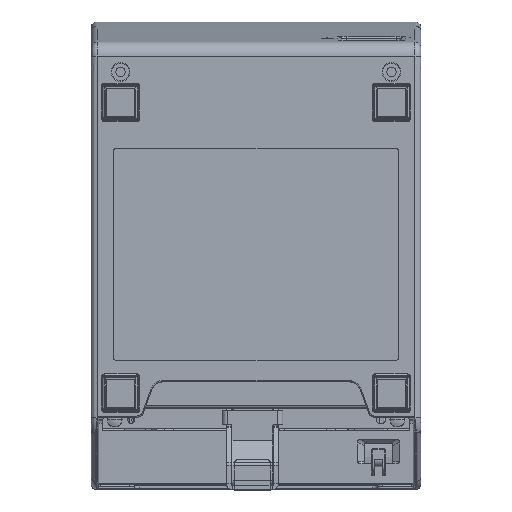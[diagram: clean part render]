
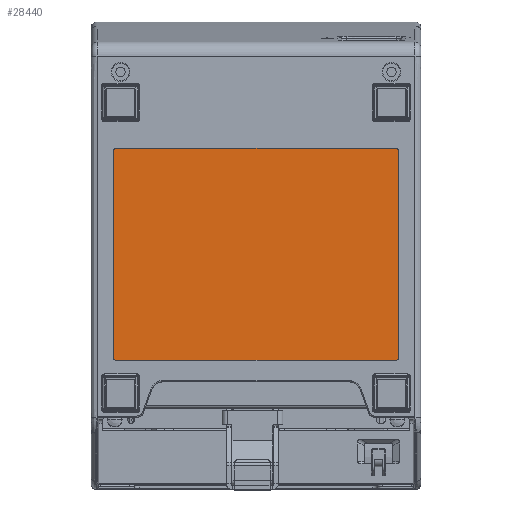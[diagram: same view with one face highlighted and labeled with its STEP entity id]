
A CAD part, front view. The second image highlights one B-rep face of the part: STEP entity #28440.
In plain terms, the highlighted planar face has unit normal (0, -1, 0).
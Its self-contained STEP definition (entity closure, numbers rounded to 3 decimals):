
#10414=CARTESIAN_POINT('',(-59.5,0.4,-56.));
#10415=DIRECTION('',(0.,-1.,0.));
#10416=DIRECTION('',(0.,0.,1.));
#10417=AXIS2_PLACEMENT_3D('',#10414,#10415,#10416);
#10419=DIRECTION('',(-1.,0.,0.));
#10420=VECTOR('',#10419,119.);
#10421=CARTESIAN_POINT('',(59.5,0.4,-55.));
#10422=LINE('',#10421,#10420);
#10423=CARTESIAN_POINT('',(59.5,0.4,-56.));
#10424=DIRECTION('',(0.,-1.,0.));
#10425=DIRECTION('',(1.,0.,0.));
#10426=AXIS2_PLACEMENT_3D('',#10423,#10424,#10425);
#10428=DIRECTION('',(0.,0.,1.));
#10429=VECTOR('',#10428,88.);
#10430=CARTESIAN_POINT('',(60.5,0.4,-144.));
#10431=LINE('',#10430,#10429);
#10432=CARTESIAN_POINT('',(59.5,0.4,-144.));
#10433=DIRECTION('',(0.,-1.,0.));
#10434=DIRECTION('',(0.,0.,-1.));
#10435=AXIS2_PLACEMENT_3D('',#10432,#10433,#10434);
#10437=DIRECTION('',(1.,0.,0.));
#10438=VECTOR('',#10437,119.);
#10439=CARTESIAN_POINT('',(-59.5,0.4,-145.));
#10440=LINE('',#10439,#10438);
#10441=CARTESIAN_POINT('',(-59.5,0.4,-144.));
#10442=DIRECTION('',(0.,-1.,0.));
#10443=DIRECTION('',(-1.,0.,0.));
#10444=AXIS2_PLACEMENT_3D('',#10441,#10442,#10443);
#10446=DIRECTION('',(0.,0.,-1.));
#10447=VECTOR('',#10446,88.);
#10448=CARTESIAN_POINT('',(-60.5,0.4,-56.));
#10449=LINE('',#10448,#10447);
#11786=CARTESIAN_POINT('',(-59.5,0.4,-55.));
#11787=CARTESIAN_POINT('',(-60.5,0.4,-56.));
#11788=VERTEX_POINT('',#11786);
#11789=VERTEX_POINT('',#11787);
#11794=CARTESIAN_POINT('',(60.5,0.4,-56.));
#11795=CARTESIAN_POINT('',(59.5,0.4,-55.));
#11796=VERTEX_POINT('',#11794);
#11797=VERTEX_POINT('',#11795);
#11802=CARTESIAN_POINT('',(59.5,0.4,-145.));
#11803=CARTESIAN_POINT('',(60.5,0.4,-144.));
#11804=VERTEX_POINT('',#11802);
#11805=VERTEX_POINT('',#11803);
#11810=CARTESIAN_POINT('',(-60.5,0.4,-144.));
#11811=CARTESIAN_POINT('',(-59.5,0.4,-145.));
#11812=VERTEX_POINT('',#11810);
#11813=VERTEX_POINT('',#11811);
#28419=CARTESIAN_POINT('',(0.,0.4,0.));
#28420=DIRECTION('',(0.,-1.,0.));
#28421=DIRECTION('',(1.,0.,0.));
#28422=AXIS2_PLACEMENT_3D('',#28419,#28420,#28421);
#28423=PLANE('',#28422);
#28425=ORIENTED_EDGE('',*,*,#28424,.F.);
#28427=ORIENTED_EDGE('',*,*,#28426,.F.);
#28428=ORIENTED_EDGE('',*,*,#28410,.F.);
#28429=ORIENTED_EDGE('',*,*,#28400,.F.);
#28431=ORIENTED_EDGE('',*,*,#28430,.F.);
#28433=ORIENTED_EDGE('',*,*,#28432,.F.);
#28435=ORIENTED_EDGE('',*,*,#28434,.F.);
#28437=ORIENTED_EDGE('',*,*,#28436,.F.);
#28438=EDGE_LOOP('',(#28425,#28427,#28428,#28429,#28431,#28433,#28435,#28437));
#28439=FACE_OUTER_BOUND('',#28438,.F.);
#10418=CIRCLE('',#10417,1.);
#10427=CIRCLE('',#10426,1.);
#10436=CIRCLE('',#10435,1.);
#10445=CIRCLE('',#10444,1.);
#28400=EDGE_CURVE('',#11805,#11796,#10431,.T.);
#28410=EDGE_CURVE('',#11796,#11797,#10427,.T.);
#28424=EDGE_CURVE('',#11788,#11789,#10418,.T.);
#28426=EDGE_CURVE('',#11797,#11788,#10422,.T.);
#28430=EDGE_CURVE('',#11804,#11805,#10436,.T.);
#28432=EDGE_CURVE('',#11813,#11804,#10440,.T.);
#28434=EDGE_CURVE('',#11812,#11813,#10445,.T.);
#28436=EDGE_CURVE('',#11789,#11812,#10449,.T.);
#28440=ADVANCED_FACE('',(#28439),#28423,.T.);
